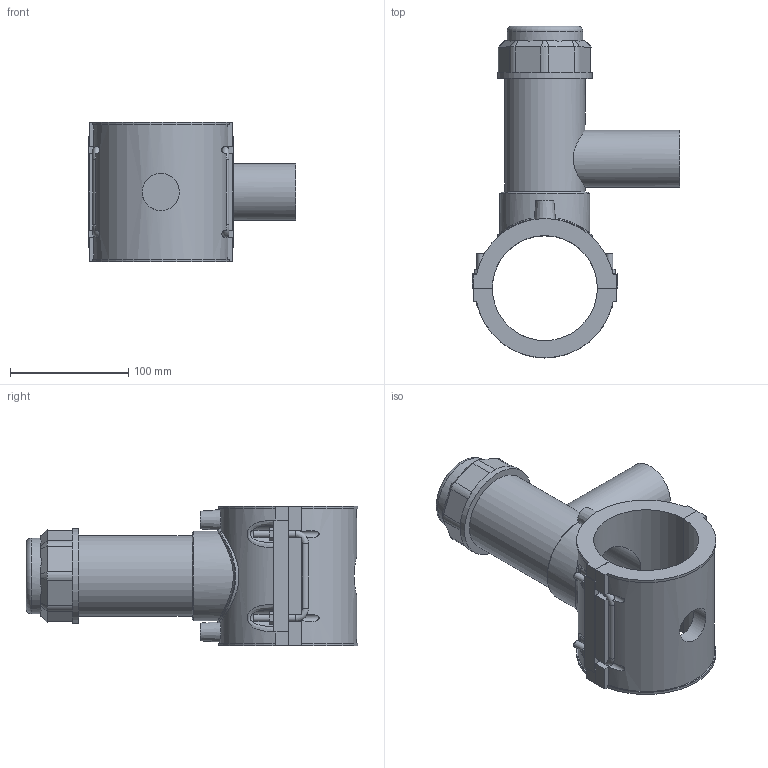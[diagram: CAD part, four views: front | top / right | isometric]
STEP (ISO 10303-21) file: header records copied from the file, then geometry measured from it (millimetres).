
FILE_DESCRIPTION(/* description */ ('PLASSON TAPPING SADDLE 3''''IPS x 1 1/2''''IPS'),/* implementation_level */ '2;1');
FILE_NAME(/* name */ 'C:\Dropbox\KIMPROJECTS-Inventor 2019\99-16-3568-Processing Inch\ASTM ElectroFusion 2021\5963B\5963BB03030015.ipt.stp',/* time_stamp */ '2021-08-30T09:55:13+03:00',/* author */ ('KIM'),/* organization */ (''),/* preprocessor_version */ 'ST-DEVELOPER v17.2',/* originating_system */ 'Autodesk Inventor 2019',/* authorisation */ '');
FILE_SCHEMA (('AUTOMOTIVE_DESIGN { 1 0 10303 214 3 1 1 }'));
Length unit declared in the file: millimetre
Products named in the file (1): 5963BB03030015
Bounding box: 175.5 x 280.2 x 118.11 mm (x, y, z)
Volume: 882941.3 mm3; surface area: 186170.4 mm2
Topology: 1 solids, 1 shells, 211 faces, 568 edges, 375 vertices
Faces by surface type: plane 128, cylinder 57, cone 15, bspline 6, torus 5
Full cylindrical faces by diameter (mm): 4 x2, 6 x7, 10 x2, 31.36 x1, 38.48 x1, 48.1 x1, 55.881 x1, 63.864 x1, 67.856 x1, 75.838 x1, 79.83 x1
Entity records: 8517 total; most frequent: CARTESIAN_POINT 3130, ORIENTED_EDGE 1158, DIRECTION 1055, EDGE_CURVE 579, VERTEX_POINT 375, AXIS2_PLACEMENT_3D 357, LINE 341, VECTOR 341
